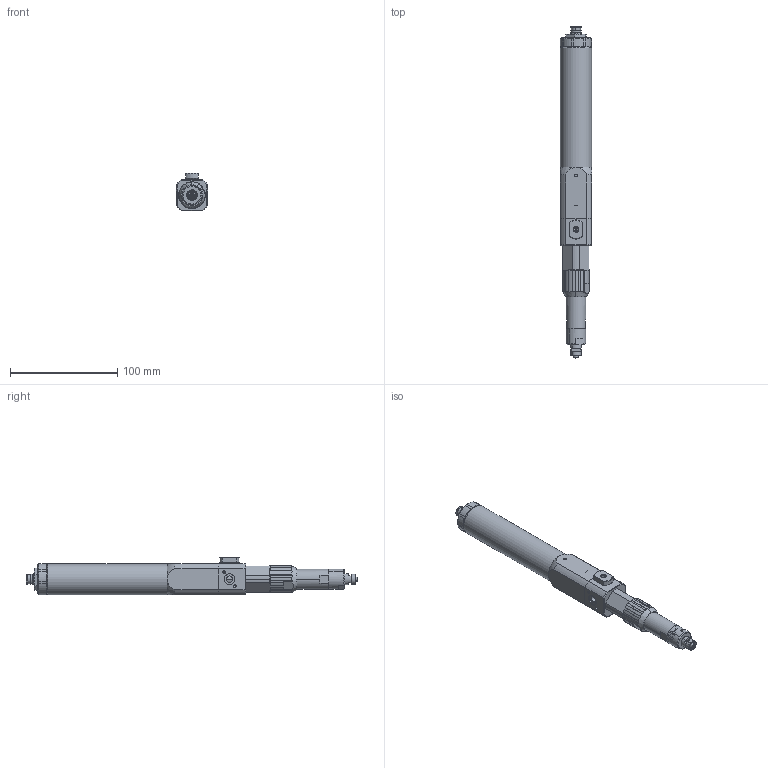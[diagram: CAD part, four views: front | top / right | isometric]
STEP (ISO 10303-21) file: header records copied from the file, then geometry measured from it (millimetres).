
FILE_DESCRIPTION (( 'STEP AP214' ), '1' );
FILE_NAME ('PCPM-1000-SY.STEP', '2024-10-11T11:36:58', ( '' ), ( '' ), 'SwSTEP 2.0', 'SolidWorks 2024', '' );
FILE_SCHEMA (( 'AUTOMOTIVE_DESIGN' ));
Length unit declared in the file: millimetre
Products named in the file (1): PCPM-1000-SY
Bounding box: 29 x 310 x 35 mm (x, y, z)
Volume: 180348.2 mm3; surface area: 35996.7 mm2
Topology: 5 solids, 8 shells, 524 faces, 1332 edges, 847 vertices
Faces by surface type: plane 203, cylinder 174, cone 128, bspline 11, torus 8
Full cylindrical faces by diameter (mm): 29 x1
Entity records: 21407 total; most frequent: CARTESIAN_POINT 8787, DIRECTION 2646, ORIENTED_EDGE 2642, EDGE_CURVE 1321, AXIS2_PLACEMENT_3D 1026, VERTEX_POINT 847, LINE 594, VECTOR 594
